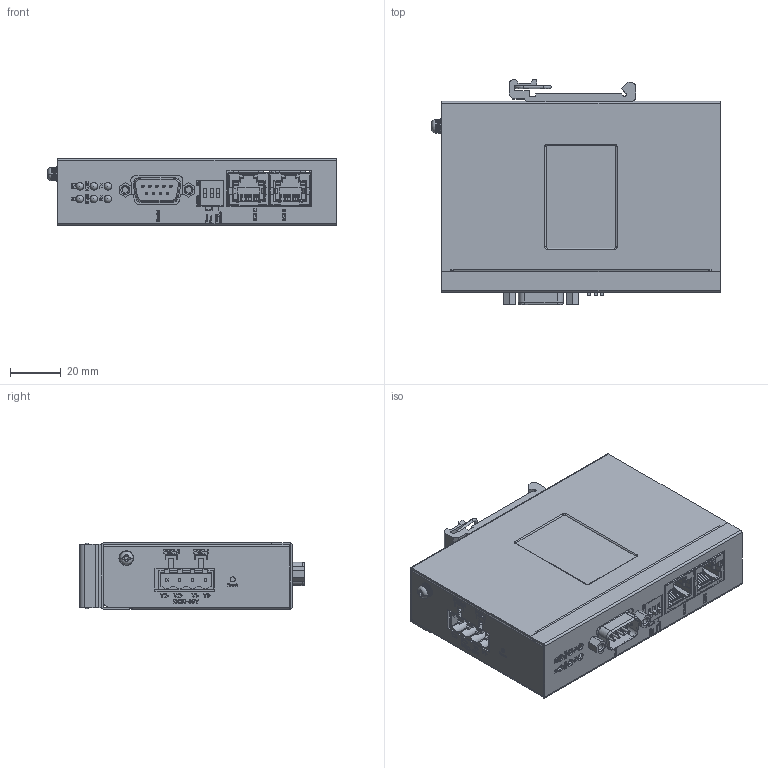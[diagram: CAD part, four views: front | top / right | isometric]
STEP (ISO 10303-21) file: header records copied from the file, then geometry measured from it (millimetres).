
FILE_DESCRIPTION(/* description */ ('STEP AP242 Edition 2','CAx-IF Rec.Pracs.---Representation and Presentation of Product Manufacturing Information (PMI)---4.0---2014-10-13','CAx-IF Rec.Pracs.---3D Tessellated Geometry---0.4---2014-09-14','2;1','CAx-IF Rec.Pracs.---User Defined Attributes---1.5---2016-08-15'),/* implementation_level */ '2;1');
FILE_NAME(/* name */ '6967dc134f351cc287e56469',/* time_stamp */ '2026-01-14T18:10:30Z',/* author */ (''),/* organization */ (''),/* preprocessor_version */ 'ST-DEVELOPER v20',/* originating_system */ 'ONSHAPE BY PTC INC, 1.209',/* authorisation */ ' ');
FILE_SCHEMA (('AP242_MANAGED_MODEL_BASED_3D_ENGINEERING_MIM_LF { 1 0 10303 442 3 1 4 }'));
Products named in the file (30): SD-093 - Rev A - Serial Ethernet Gateway; MSBR-3; PCB; 1508-01-010-0025S_DINRAIL-25; PART_LED-30D-90-2X1_H2-7_5-0_1; DOWN-COVER; 1504-1-M3040-31-0-40_7; 1504-1-M3040-31-0-40_6; 1504-1-M3060-21-7-40; MSBR-2_1; 1504-1-M3040-31-0-40_8; TOP-COVER; 2143-6-2-0000001-08; 1504-1-M3040-31-0-40_1; MSBR-1_1; 2141-36-2EHDRC04P-01; MSBR-1; MSBR-2; PART_SW-TACT_L5_85; 1504-1-M3040-31-0-40; PART_LED-30D-90-2X1_H2-7_5-0; 2141-06-DSUBM-01; MSBR-3_1; PART_LED-30D-90-2X1_H2-7_5-0_2
Assembly tree (29 placements, depth 2):
  SD-093 - Rev A - Serial Ethernet Gateway
    MSBR-3
    PCB
    1508-01-010-0025S_DINRAIL-25
    PART_LED-30D-90-2X1_H2-7_5-0_1
    DOWN-COVER
    1504-1-M3040-31-0-40_7
    1504-1-M3040-31-0-40_6
    DOWN-COVER
    1504-1-M3060-21-7-40
    MSBR-2_1
    1504-1-M3040-31-0-40_8
    DOWN-COVER
    TOP-COVER
    2143-6-2-0000001-08
    1504-1-M3060-21-7-40
    1504-1-M3040-31-0-40_1
    DOWN-COVER
    MSBR-1_1
    2141-36-2EHDRC04P-01
    MSBR-1
    MSBR-2
    PART_SW-TACT_L5_85
    TOP-COVER
    1504-1-M3040-31-0-40
    PART_LED-30D-90-2X1_H2-7_5-0
    2141-06-DSUBM-01
    MSBR-3_1
    PART_LED-30D-90-2X1_H2-7_5-0_2
    DOWN-COVER
Bounding box: 113.9 x 88.8 x 26.1 mm (x, y, z)
Volume: 47552.7 mm3; surface area: 92924.7 mm2
Topology: 29 solids, 31 shells, 4987 faces, 13625 edges, 8937 vertices
Faces by surface type: plane 4275, cylinder 570, torus 92, cone 26, bspline 14, sphere 10
Full cylindrical faces by diameter (mm): 0.6 x4, 0.7 x2, 0.849 x3, 1 x20, 1.2 x4, 1.3 x4, 1.372 x5, 1.4 x2, 1.524 x19, 1.829 x2, 2 x1, 2.108 x3, 2.388 x2, 2.5 x4, 2.6 x2, 3 x39, 3.2 x4, 3.251 x4, 3.4 x1, 4 x3, 4.115 x2, 4.6 x18, 5 x7, 5.3 x1, 5.8 x1
Entity records: 155943 total; most frequent: CARTESIAN_POINT 28776, ORIENTED_EDGE 26670, DIRECTION 24713, EDGE_CURVE 13335, LINE 11755, VECTOR 11755, VERTEX_POINT 8856, AXIS2_PLACEMENT_3D 6479
